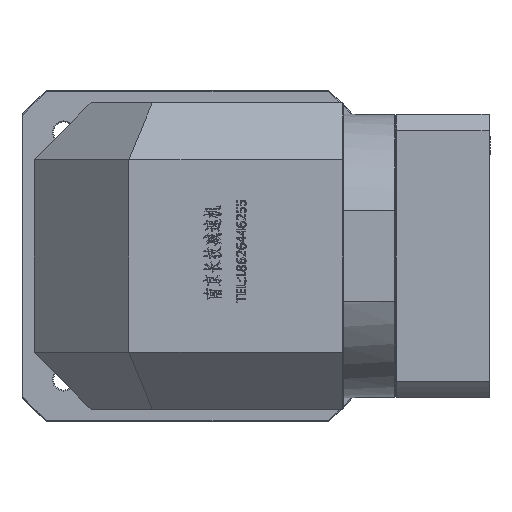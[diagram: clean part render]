
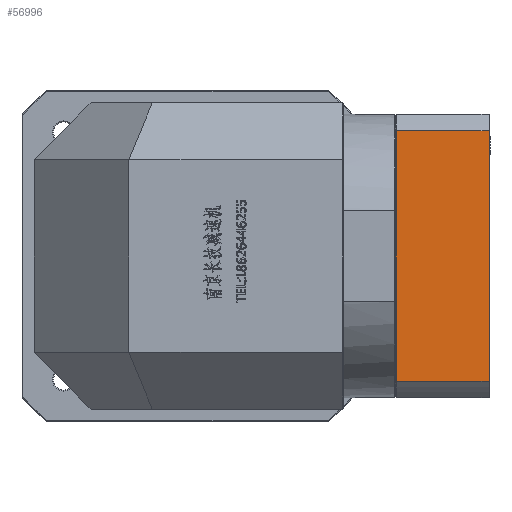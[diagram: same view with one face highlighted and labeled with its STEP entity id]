
A CAD part, left-side view. The second image highlights one B-rep face of the part: STEP entity #56996.
In plain terms, the highlighted planar face has unit normal (-1, 0, 0).
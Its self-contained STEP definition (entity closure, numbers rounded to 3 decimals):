
#4496 = VECTOR ( 'NONE', #49449, 1000. ) ;
#16217 = LINE ( 'NONE', #102291, #96363 ) ;
#21011 = EDGE_CURVE ( 'NONE', #22562, #89224, #149605, .T. ) ;
#22562 = VERTEX_POINT ( 'NONE', #77350 ) ;
#30537 = ORIENTED_EDGE ( 'NONE', *, *, #38763, .F. ) ;
#30629 = LINE ( 'NONE', #74437, #4496 ) ;
#31425 = DIRECTION ( 'NONE',  ( 0., 0., -1. ) ) ;
#38763 = EDGE_CURVE ( 'NONE', #49503, #126227, #30629, .T. ) ;
#49449 = DIRECTION ( 'NONE',  ( 0., 0., -1. ) ) ;
#49503 = VERTEX_POINT ( 'NONE', #57295 ) ;
#56996 = ADVANCED_FACE ( 'NONE', ( #120046 ), #138850, .F. ) ;
#57295 = CARTESIAN_POINT ( 'NONE',  ( -104.437, -226.288, 322.226 ) ) ;
#58997 = DIRECTION ( 'NONE',  ( 0., 1., 0. ) ) ;
#60044 = DIRECTION ( 'NONE',  ( 0., 1., 0. ) ) ;
#61812 = EDGE_CURVE ( 'NONE', #22562, #49503, #16217, .T. ) ;
#63288 = ORIENTED_EDGE ( 'NONE', *, *, #21011, .T. ) ;
#63316 = EDGE_LOOP ( 'NONE', ( #69714, #63288, #97440, #30537 ) ) ;
#69714 = ORIENTED_EDGE ( 'NONE', *, *, #61812, .F. ) ;
#70430 = DIRECTION ( 'NONE',  ( 1., 0., 0. ) ) ;
#74437 = CARTESIAN_POINT ( 'NONE',  ( -104.437, -226.288, 181.082 ) ) ;
#77350 = CARTESIAN_POINT ( 'NONE',  ( -104.437, -177.288, 322.226 ) ) ;
#86089 = LINE ( 'NONE', #131452, #132759 ) ;
#89224 = VERTEX_POINT ( 'NONE', #134429 ) ;
#96363 = VECTOR ( 'NONE', #125734, 1000. ) ;
#97440 = ORIENTED_EDGE ( 'NONE', *, *, #154601, .F. ) ;
#102291 = CARTESIAN_POINT ( 'NONE',  ( -104.437, -226.788, 322.226 ) ) ;
#102827 = CARTESIAN_POINT ( 'NONE',  ( -104.437, -177.288, 181.082 ) ) ;
#120046 = FACE_OUTER_BOUND ( 'NONE', #63316, .T. ) ;
#122761 = CARTESIAN_POINT ( 'NONE',  ( -104.437, -226.288, 189.938 ) ) ;
#125734 = DIRECTION ( 'NONE',  ( 0., -1., 0. ) ) ;
#126227 = VERTEX_POINT ( 'NONE', #122761 ) ;
#130379 = CARTESIAN_POINT ( 'NONE',  ( -104.437, -226.788, 181.082 ) ) ;
#131452 = CARTESIAN_POINT ( 'NONE',  ( -104.437, 108.883, 189.938 ) ) ;
#132759 = VECTOR ( 'NONE', #60044, 1000. ) ;
#134429 = CARTESIAN_POINT ( 'NONE',  ( -104.437, -177.288, 189.938 ) ) ;
#134838 = AXIS2_PLACEMENT_3D ( 'NONE', #130379, #70430, #58997 ) ;
#138352 = VECTOR ( 'NONE', #31425, 1000. ) ;
#138850 = PLANE ( 'NONE',  #134838 ) ;
#149605 = LINE ( 'NONE', #102827, #138352 ) ;
#154601 = EDGE_CURVE ( 'NONE', #126227, #89224, #86089, .T. ) ;
